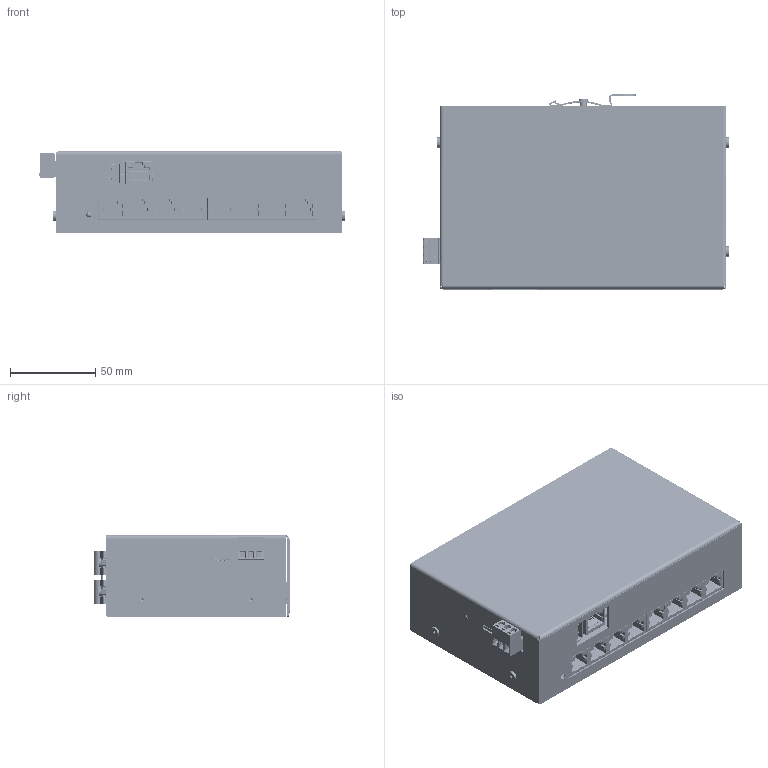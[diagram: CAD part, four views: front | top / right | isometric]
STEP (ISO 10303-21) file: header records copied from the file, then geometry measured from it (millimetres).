
FILE_DESCRIPTION(/* description */ (''),/* implementation_level */ '2;1');
FILE_NAME(/* name */ 'PPH600-61A_20260706.stp',/* time_stamp */ '2026-07-06T14:46:29+02:00',/* author */ ('ut3'),/* organization */ (''),/* preprocessor_version */ 'ST-DEVELOPER v20.1',/* originating_system */ 'Autodesk Inventor 2026',/* authorisation */ '');
FILE_SCHEMA (('AUTOMOTIVE_DESIGN { 1 0 10303 214 3 1 1 }'));
Products named in the file (333): PPH_8_V3; GS1200-8V3; PCB_8; 1X4¿Õ¿ÚÏµÁÐ´ø
µÆÎÞµ¯LPJE401BGNL; Led singolo; 694106301002 (rev1); 1300.20.615_V3; 1300.20.615_V3_1; DC16_1030_M3; 1300.20.616_V3; 1300.20.616_V3_1; DC06_1030_M3; 0; 0_1; 0_2; 0_3; 0_4; 0_5; 0_6; 0_7; 0_8; 0_9; KR-5R5V104_224_334_474-R; 0200.20.064-3F-90°; 0200.20.064-3F_90°; Reoforo_corto_90°; ASSEMBLY; Body; FilletPin1; FilletPin2; RCLAMP0524PATCT; SOD523 Asm; SOD523 LF; SOD523 compound; RCAB-10; 0_10; 0_11; 0_12; 0_13; 0_14 ...
Assembly tree (663 placements, depth 5):
  PPH_8_V3
    GS1200-8V3
      PCB_8
      1X4¿Õ¿ÚÏµÁÐ´ø
µÆÎÞµ¯LPJE401BGNL  x2
      Led singolo
      694106301002 (rev1)
    1300.20.615_V3
      1300.20.615_V3_1
      DC16_1030_M3  x4
    1300.20.616_V3
      1300.20.616_V3_1
      DC06_1030_M3  x3
    0
      0_1
        0_2
      0_3
      0_4
      0_5
      0_6
      0_7
      0_8
      0_9
      KR-5R5V104_224_334_474-R
      0200.20.064-3F-90°
        0200.20.064-3F_90°
        Reoforo_corto_90°  x2
      GRM31A5C2J101FW01D  x5
        GCM31A5C2J820JX01J_3
        GCM31A5C2J820JX01J_2
        GCM31A5C2J820JX01J
      ASSEMBLY_7  x2
        Fillet1
        Fillet2
        body2
      ASSEMBLY_8  x5
        Fillet1_1
        Fillet2_1
        body2_1
      ASSEMBLY_10  x7
        Fillet1_3
        Fillet2_3
        body2_3
      ASSEMBLY  x2
        Body
        FilletPin1
        FilletPin2
      SOD523 Asm  x2
        SOD523 LF
        SOD523 compound
      RCLAMP0524PATCT  x2
      RCAB-10  x3
      0_10
      0_11
      0_12
      0_13
      0_14
      C-1-1393225-7
      0600.00.073_ind-4x4x3  x2
      ASSEMBLY_1
        term1
Bounding box: 179.38 x 114.58 x 48 mm (x, y, z)
Volume: 121965.4 mm3; surface area: 329732.5 mm2
Topology: 1555 solids, 24215 shells, 47470 faces, 167435 edges, 144456 vertices
Faces by surface type: cylinder 26012, plane 19337, sphere 1506, bspline 301, cone 221, torus 93
Full cylindrical faces by diameter (mm): 0.15 x2, 0.156 x1, 0.4 x4, 0.45 x64, 0.5 x2, 0.585 x2, 0.6 x6, 0.625 x2, 0.64 x4, 0.7 x2, 0.8 x1, 1.016 x4, 1.5 x4, 1.6 x3, 1.8 x2, 2 x7, 2.3 x1, 2.459 x4, 2.5 x10, 3 x5, 3.2 x2, 3.3 x1, 3.4 x4, 3.6 x1, 3.621 x2, 3.7 x3, 3.85 x3, 4 x2, 4.05 x6, 4.2 x5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
Entity records: 1577656 total; most frequent: CARTESIAN_POINT 353229, DIRECTION 264953, ORIENTED_EDGE 162992, EDGE_CURVE 135319, VERTEX_POINT 125599, AXIS2_PLACEMENT_3D 95759, LINE 73435, VECTOR 73435
